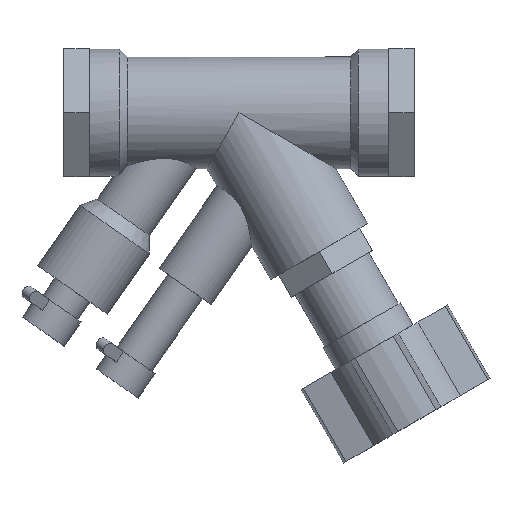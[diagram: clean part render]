
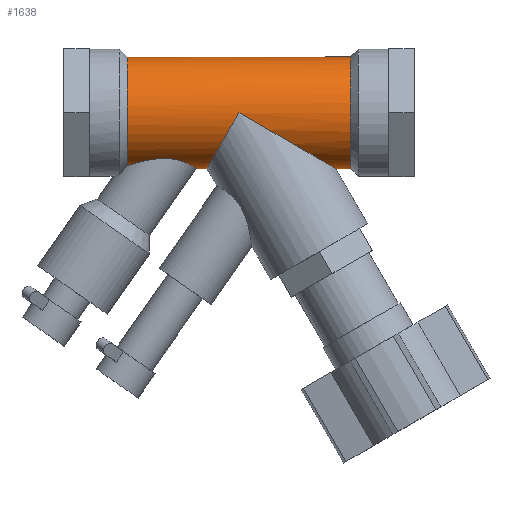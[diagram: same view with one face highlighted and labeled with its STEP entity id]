
A CAD part, top view. The second image highlights one B-rep face of the part: STEP entity #1638.
In plain terms, the highlighted cylindrical face has radius 16.701 mm (diameter 33.401 mm), a full revolution.
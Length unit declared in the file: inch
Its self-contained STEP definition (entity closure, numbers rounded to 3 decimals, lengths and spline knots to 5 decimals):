
#45=ELLIPSE('',#1798,1.315,0.6575);
#46=ELLIPSE('',#1799,0.75922,0.6575);
#47=ELLIPSE('',#1801,0.75922,0.6575);
#48=ELLIPSE('',#1802,1.315,0.6575);
#53=B_SPLINE_CURVE_WITH_KNOTS('',3,(#2700,#2701,#2702,#2703,#2704,#2705,
#2706,#2707,#2708,#2709,#2710,#2711,#2712,#2713,#2714,#2715,#2716,#2717,
#2718,#2719),.UNSPECIFIED.,.F.,.F.,(4,2,2,2,2,2,2,2,2,4),(1.49832,
1.8577,2.21709,2.41198,2.60686,2.80175,
2.99663,3.51645,4.03626,4.17764),
 .UNSPECIFIED.);
#54=B_SPLINE_CURVE_WITH_KNOTS('',3,(#2722,#2723,#2724,#2725,#2726,#2727,
#2728,#2729,#2730,#2731,#2732,#2733,#2734,#2735,#2736,#2737,#2738,#2739,
#2740,#2741,#2742),.UNSPECIFIED.,.F.,.F.,(4,2,2,3,2,2,2,2,2,4),(-1.181,
-1.03963,-0.51981,0.,0.19489,0.38977,
0.58466,0.77955,1.13893,1.49832),
 .UNSPECIFIED.);
#137=LINE('',#2765,#270);
#138=LINE('',#2770,#271);
#270=VECTOR('',#2160,0.6575);
#271=VECTOR('',#2165,0.6575);
#345=CYLINDRICAL_SURFACE('',#1796,0.6575);
#415=FACE_OUTER_BOUND('',#510,.T.);
#510=EDGE_LOOP('',(#1232,#1233,#1234,#1235,#1236,#1237,#1238,#1239,#1240,
#1241,#1242,#1243,#1244));
#604=CIRCLE('',#1797,0.6575);
#605=CIRCLE('',#1800,0.6575);
#606=CIRCLE('',#1803,0.6575);
#721=VERTEX_POINT('',#2692);
#722=VERTEX_POINT('',#2699);
#723=VERTEX_POINT('',#2721);
#725=VERTEX_POINT('',#2761);
#726=VERTEX_POINT('',#2762);
#727=VERTEX_POINT('',#2764);
#728=VERTEX_POINT('',#2766);
#729=VERTEX_POINT('',#2768);
#730=VERTEX_POINT('',#2772);
#905=EDGE_CURVE('',#722,#721,#53,.T.);
#907=EDGE_CURVE('',#723,#722,#54,.T.);
#911=EDGE_CURVE('',#725,#726,#604,.T.);
#912=EDGE_CURVE('',#726,#727,#137,.T.);
#913=EDGE_CURVE('',#727,#728,#45,.T.);
#914=EDGE_CURVE('',#728,#729,#46,.T.);
#915=EDGE_CURVE('',#729,#722,#138,.T.);
#916=EDGE_CURVE('',#721,#723,#605,.T.);
#917=EDGE_CURVE('',#729,#730,#47,.T.);
#918=EDGE_CURVE('',#730,#727,#48,.T.);
#919=EDGE_CURVE('',#726,#725,#606,.T.);
#1232=ORIENTED_EDGE('',*,*,#911,.T.);
#1233=ORIENTED_EDGE('',*,*,#912,.T.);
#1234=ORIENTED_EDGE('',*,*,#913,.T.);
#1235=ORIENTED_EDGE('',*,*,#914,.T.);
#1236=ORIENTED_EDGE('',*,*,#915,.T.);
#1237=ORIENTED_EDGE('',*,*,#905,.T.);
#1238=ORIENTED_EDGE('',*,*,#916,.T.);
#1239=ORIENTED_EDGE('',*,*,#907,.T.);
#1240=ORIENTED_EDGE('',*,*,#915,.F.);
#1241=ORIENTED_EDGE('',*,*,#917,.T.);
#1242=ORIENTED_EDGE('',*,*,#918,.T.);
#1243=ORIENTED_EDGE('',*,*,#912,.F.);
#1244=ORIENTED_EDGE('',*,*,#919,.T.);
#1638=ADVANCED_FACE('',(#415),#345,.T.);
#1796=AXIS2_PLACEMENT_3D('',#2760,#2156,#2157);
#1797=AXIS2_PLACEMENT_3D('',#2763,#2158,#2159);
#1798=AXIS2_PLACEMENT_3D('',#2767,#2161,#2162);
#1799=AXIS2_PLACEMENT_3D('',#2769,#2163,#2164);
#1800=AXIS2_PLACEMENT_3D('',#2771,#2166,#2167);
#1801=AXIS2_PLACEMENT_3D('',#2773,#2168,#2169);
#1802=AXIS2_PLACEMENT_3D('',#2774,#2170,#2171);
#1803=AXIS2_PLACEMENT_3D('',#2775,#2172,#2173);
#2156=DIRECTION('center_axis',(1.,0.,0.));
#2157=DIRECTION('ref_axis',(0.,1.,0.));
#2158=DIRECTION('center_axis',(-1.,0.,0.));
#2159=DIRECTION('ref_axis',(0.,1.,0.));
#2160=DIRECTION('',(-1.,0.,0.));
#2161=DIRECTION('center_axis',(0.5,0.866,0.));
#2162=DIRECTION('ref_axis',(-0.866,0.5,0.));
#2163=DIRECTION('center_axis',(-0.866,0.5,0.));
#2164=DIRECTION('ref_axis',(-0.5,-0.866,0.));
#2165=DIRECTION('',(-1.,0.,0.));
#2166=DIRECTION('center_axis',(1.,0.,0.));
#2167=DIRECTION('ref_axis',(0.,1.,0.));
#2168=DIRECTION('center_axis',(-0.866,0.5,0.));
#2169=DIRECTION('ref_axis',(-0.5,-0.866,0.));
#2170=DIRECTION('center_axis',(0.5,0.866,0.));
#2171=DIRECTION('ref_axis',(-0.866,0.5,0.));
#2172=DIRECTION('center_axis',(-1.,0.,0.));
#2173=DIRECTION('ref_axis',(0.,1.,0.));
#2692=CARTESIAN_POINT('',(-1.315,-0.62289,-0.21052));
#2699=CARTESIAN_POINT('',(-0.5026,-0.6575,0.));
#2700=CARTESIAN_POINT('Ctrl Pts',(-0.5026,-0.6575,0.));
#2701=CARTESIAN_POINT('Ctrl Pts',(-0.5026,-0.6575,-0.04716));
#2702=CARTESIAN_POINT('Ctrl Pts',(-0.51025,-0.65196,
-0.09745));
#2703=CARTESIAN_POINT('Ctrl Pts',(-0.54254,-0.63127,
-0.18985));
#2704=CARTESIAN_POINT('Ctrl Pts',(-0.5673,-0.61629,
-0.23195));
#2705=CARTESIAN_POINT('Ctrl Pts',(-0.61389,-0.59377,
-0.28306));
#2706=CARTESIAN_POINT('Ctrl Pts',(-0.63282,-0.5855,
-0.29959));
#2707=CARTESIAN_POINT('Ctrl Pts',(-0.675,-0.57008,
-0.32799));
#2708=CARTESIAN_POINT('Ctrl Pts',(-0.69825,-0.56296,
-0.33985));
#2709=CARTESIAN_POINT('Ctrl Pts',(-0.74744,-0.55142,
-0.35827));
#2710=CARTESIAN_POINT('Ctrl Pts',(-0.77345,-0.547,
-0.36486));
#2711=CARTESIAN_POINT('Ctrl Pts',(-0.82603,-0.54133,
-0.37322));
#2712=CARTESIAN_POINT('Ctrl Pts',(-0.85259,-0.54008,
-0.375));
#2713=CARTESIAN_POINT('Ctrl Pts',(-0.94638,-0.54008,
-0.375));
#2714=CARTESIAN_POINT('Ctrl Pts',(-1.01838,-0.54915,
-0.36251));
#2715=CARTESIAN_POINT('Ctrl Pts',(-1.15476,-0.57614,
-0.31788));
#2716=CARTESIAN_POINT('Ctrl Pts',(-1.21916,-0.59374,
-0.28566));
#2717=CARTESIAN_POINT('Ctrl Pts',(-1.28685,-0.61406,
-0.23531));
#2718=CARTESIAN_POINT('Ctrl Pts',(-1.30125,-0.61852,
-0.22343));
#2719=CARTESIAN_POINT('Ctrl Pts',(-1.315,-0.62289,-0.21052));
#2721=CARTESIAN_POINT('',(-1.315,-0.62289,0.21052));
#2722=CARTESIAN_POINT('Ctrl Pts',(-1.315,-0.62289,0.21052));
#2723=CARTESIAN_POINT('Ctrl Pts',(-1.30125,-0.61852,0.22343));
#2724=CARTESIAN_POINT('Ctrl Pts',(-1.28685,-0.61406,0.23531));
#2725=CARTESIAN_POINT('Ctrl Pts',(-1.21916,-0.59374,
0.28566));
#2726=CARTESIAN_POINT('Ctrl Pts',(-1.15476,-0.57614,
0.31788));
#2727=CARTESIAN_POINT('Ctrl Pts',(-1.01838,-0.54915,
0.36251));
#2728=CARTESIAN_POINT('Ctrl Pts',(-0.94638,-0.54008,
0.375));
#2729=CARTESIAN_POINT('Ctrl Pts',(-0.87816,-0.54008,
0.375));
#2730=CARTESIAN_POINT('Ctrl Pts',(-0.85259,-0.54008,
0.375));
#2731=CARTESIAN_POINT('Ctrl Pts',(-0.82603,-0.54133,
0.37322));
#2732=CARTESIAN_POINT('Ctrl Pts',(-0.77345,-0.547,
0.36486));
#2733=CARTESIAN_POINT('Ctrl Pts',(-0.74744,-0.55142,
0.35827));
#2734=CARTESIAN_POINT('Ctrl Pts',(-0.69825,-0.56296,
0.33985));
#2735=CARTESIAN_POINT('Ctrl Pts',(-0.675,-0.57008,
0.32799));
#2736=CARTESIAN_POINT('Ctrl Pts',(-0.63282,-0.5855,
0.29959));
#2737=CARTESIAN_POINT('Ctrl Pts',(-0.61389,-0.59377,
0.28306));
#2738=CARTESIAN_POINT('Ctrl Pts',(-0.5673,-0.61629,
0.23195));
#2739=CARTESIAN_POINT('Ctrl Pts',(-0.54254,-0.63127,
0.18985));
#2740=CARTESIAN_POINT('Ctrl Pts',(-0.51025,-0.65196,
0.09745));
#2741=CARTESIAN_POINT('Ctrl Pts',(-0.5026,-0.6575,0.04716));
#2742=CARTESIAN_POINT('Ctrl Pts',(-0.5026,-0.6575,0.));
#2760=CARTESIAN_POINT('Origin',(0.,0.,
0.));
#2761=CARTESIAN_POINT('',(1.315,0.6575,0.));
#2762=CARTESIAN_POINT('',(1.315,-0.6575,0.));
#2763=CARTESIAN_POINT('Origin',(1.315,0.,0.));
#2764=CARTESIAN_POINT('',(1.13882,-0.6575,0.));
#2765=CARTESIAN_POINT('',(0.,-0.6575,0.));
#2766=CARTESIAN_POINT('',(0.,0.,-0.6575));
#2767=CARTESIAN_POINT('Origin',(0.,0.,0.));
#2768=CARTESIAN_POINT('',(-0.37961,-0.6575,0.));
#2769=CARTESIAN_POINT('Origin',(0.,0.,0.));
#2770=CARTESIAN_POINT('',(0.,-0.6575,0.));
#2771=CARTESIAN_POINT('Origin',(-1.315,0.,0.));
#2772=CARTESIAN_POINT('',(0.,0.,0.6575));
#2773=CARTESIAN_POINT('Origin',(0.,0.,0.));
#2774=CARTESIAN_POINT('Origin',(0.,0.,0.));
#2775=CARTESIAN_POINT('Origin',(1.315,0.,0.));
